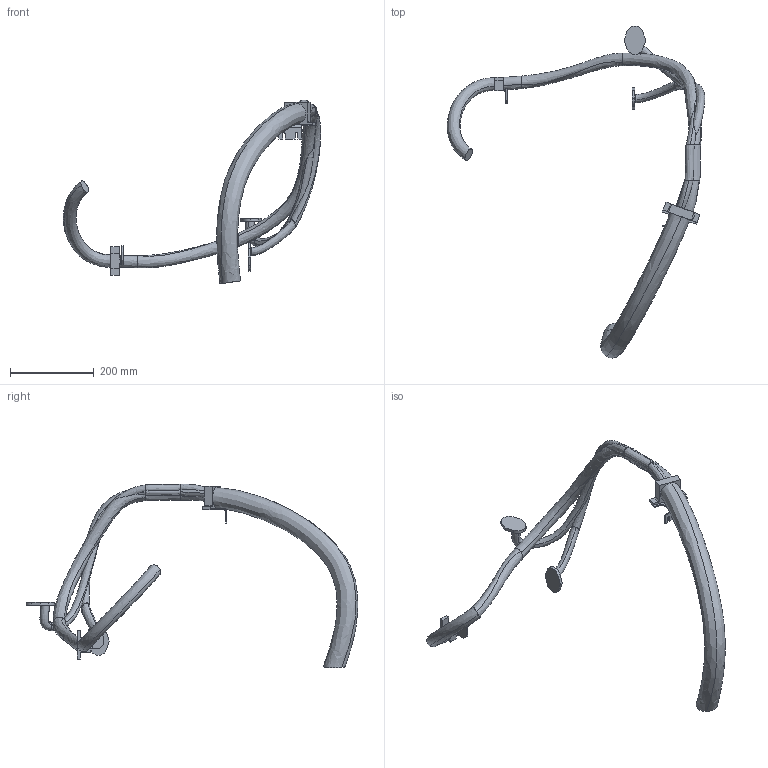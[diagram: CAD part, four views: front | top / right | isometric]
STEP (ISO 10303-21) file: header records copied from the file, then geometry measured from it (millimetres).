
FILE_DESCRIPTION (( 'STEP AP203' ), '1' );
FILE_NAME ('IRB6700-MH6_220-300_IRC5_rev01_LINK03m_CABLE.STEP', '2014-08-27T11:27:02', ( 'ABB' ), ( 'ABB' ), 'SwSTEP 2.0', 'SolidWorks 2012', '' );
FILE_SCHEMA (( 'CONFIG_CONTROL_DESIGN' ));
Length unit declared in the file: millimetre
Products named in the file (1): IRB6700-MH6_220-300_IRC5_rev01_LINK03m_CABLE
Bounding box: 612.94 x 790.55 x 437.39 mm (x, y, z)
Volume: 2489009.1 mm3; surface area: 291289.8 mm2
Topology: 1 solids, 1 shells, 132 faces, 376 edges, 249 vertices
Faces by surface type: plane 68, bspline 42, cylinder 22
Entity records: 25232 total; most frequent: CARTESIAN_POINT 22120, ORIENTED_EDGE 752, DIRECTION 448, EDGE_CURVE 376, VERTEX_POINT 249, VECTOR 182, LINE 182, B_SPLINE_CURVE_WITH_KNOTS 152
